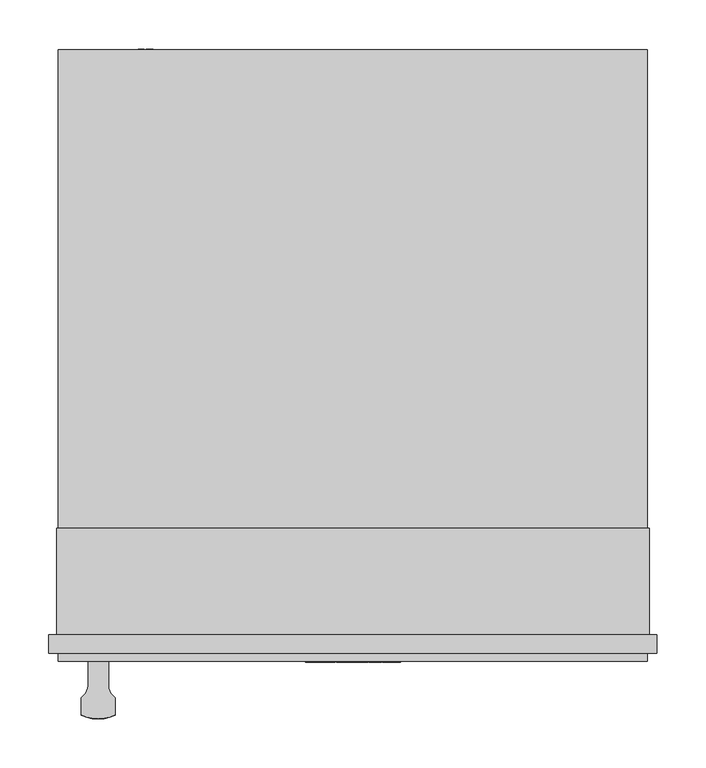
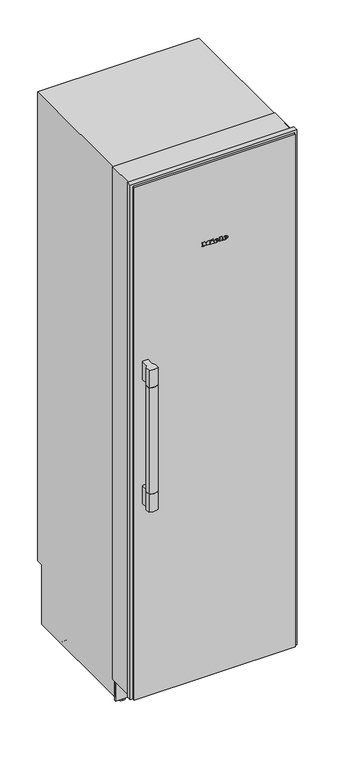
"""IFC4 building model written with IfcOpenShell, lengths in millimetres: proxy geometry, 11502570_USA_K2602SF : 36260211_USA_11502570_K2602SF."""

from ifc_helpers import new_model, si_unit, point, frame, frame_2d, origin, place, context, project, spatial, polyline, circle_curve, ellipse_curve, trimmed, segment, composite_curve, outline, extrude, faceted_brep, source, transform, mapped, element, save
from ifc_brep_helpers import plane_surface, cylinder_surface, revolved_surface, extruded_surface, advanced_brep


def specialty_equipment_205c020d(model_context):
    return source(origin(), model_context, "Body", "SolidModel", [
        extrude(outline(polyline([(-291.0, 68.0), (291.0, 68.0), (291.0, 21.0), (-291.0, 21.0), (-291.0, 68.0)])), frame((0.0, 0.0, 265.0), z_axis=(0.0, 0.0, 1.0), x_axis=(1.0, 0.0, 0.0)), (0.0, 0.0, 1.0), 1771.0),
        extrude(outline(polyline([(-137.5, 50.0), (137.5, 50.0), (137.5, 21.0), (-137.5, 21.0), (-137.5, 50.0)])), frame((0.0, 0.0, 2036.0), z_axis=(0.0, 0.0, 1.0), x_axis=(1.0, 0.0, 0.0)), (0.0, 0.0, 1.0), 56.0),
        extrude(outline(polyline([(265.0, 21.0), (265.0, 0.0), (265.0, -21.0), (224.0, -21.0), (224.0, -6.5), (99.0, -6.5), (99.0, 0.0), (99.0, 6.5), (224.0, 6.5), (224.0, 21.0), (265.0, 21.0)])), frame((0.0, 21.0, 0.0), z_axis=(0.0, 1.0, 0.0), x_axis=(0.0, 0.0, 1.0)), (0.0, 0.0, 1.0), 54.0),
        extrude(outline(polyline([(-301.5, 21.0), (301.5, 21.0), (301.5, 0.0), (-301.5, 0.0), (-301.5, 21.0)])), frame((0.0, 0.0, 90.0), z_axis=(0.0, 0.0, 1.0), x_axis=(1.0, 0.0, 0.0)), (0.0, 0.0, 1.0), 2023.0),
        advanced_brep(
        [(-250.0, 0.0, 928.0), (-271.0, 0.0, 928.0), (-271.0, -24.4390599, 928.0), (-278.0, -37.4390599, 928.0), (-278.0, -55.0, 928.0), (-260.5, -59.0, 928.0), (-243.0, -55.0, 928.0), (-243.0, -37.4390599, 928.0), (-250.0, -24.4390599, 928.0), (-243.0, -37.4390599, 858.0), (-243.0, -55.0, 858.0), (-260.5, -59.0, 858.0), (-278.0, -55.0, 858.0), (-278.0, -37.4390599, 858.0), (-271.0, -24.4390599, 858.0), (-271.0, 0.0, 858.0), (-250.0, 0.0, 858.0), (-250.0, -24.4390599, 858.0)],
        [
            (0, 1),
            (1, 2),
            (2, 3, circle_curve(frame((-286.5714286, -24.4390599, 928.0), z_axis=(0.0, 0.0, -1.0), x_axis=(-1.0, 0.0, 0.0)), 15.5714286)),
            (3, 4),
            (4, 5, circle_curve(frame((-260.5, -18.71875, 928.0), z_axis=(0.0, 0.0, 1.0), x_axis=(-1.0, 0.0, 0.0)), 40.28125)),
            (5, 6, circle_curve(frame((-260.5, -18.71875, 928.0), z_axis=(0.0, 0.0, 1.0), x_axis=(-1.0, 0.0, 0.0)), 40.28125)),
            (6, 7),
            (7, 8, circle_curve(frame((-234.4285714, -24.4390599, 928.0), z_axis=(0.0, 0.0, -1.0), x_axis=(-1.0, 0.0, 0.0)), 15.5714286)),
            (8, 0),
            (9, 10),
            (10, 11, circle_curve(frame((-260.5, -18.71875, 858.0), z_axis=(0.0, 0.0, -1.0), x_axis=(-1.0, 0.0, 0.0)), 40.28125)),
            (11, 12, circle_curve(frame((-260.5, -18.71875, 858.0), z_axis=(0.0, 0.0, -1.0), x_axis=(-1.0, 0.0, 0.0)), 40.28125)),
            (12, 13),
            (13, 14, circle_curve(frame((-286.5714286, -24.4390599, 858.0), z_axis=(0.0, 0.0, 1.0), x_axis=(-1.0, 0.0, 0.0)), 15.5714286)),
            (14, 15),
            (15, 16),
            (16, 17),
            (17, 9, circle_curve(frame((-234.4285714, -24.4390599, 858.0), z_axis=(0.0, 0.0, 1.0), x_axis=(-1.0, 0.0, 0.0)), 15.5714286)),
            (0, 16),
            (15, 1),
            (3, 13),
            (12, 4),
            (6, 10),
            (9, 7),
            (14, 2),
            (8, 17),
        ],
        [
            plane_surface(frame((-278.0, 0.0, 928.0), z_axis=(0.0, 0.0, 1.0), x_axis=(-1.0, 0.0, 0.0))),
            plane_surface(frame((-278.0, 0.0, 858.0), z_axis=(0.0, 0.0, -1.0), x_axis=(1.0, 0.0, 0.0))),
            plane_surface(frame((-243.0, 0.0, 928.0), z_axis=(0.0, 1.0, 0.0), x_axis=(0.0, 0.0, -1.0))),
            plane_surface(frame((-278.0, 0.0, 928.0), z_axis=(-1.0, 0.0, 0.0), x_axis=(0.0, 0.0, -1.0))),
            plane_surface(frame((-243.0, -59.0, 928.0), z_axis=(1.0, 0.0, 0.0), x_axis=(0.0, 0.0, -1.0))),
            plane_surface(frame((-271.0, -24.4390599, 1418.0), z_axis=(-1.0, 0.0, 0.0), x_axis=(0.0, 0.0, -1.0))),
            plane_surface(frame((-250.0, 0.0, 1418.0), z_axis=(1.0, 0.0, 0.0), x_axis=(0.0, 0.0, -1.0))),
            cylinder_surface(frame((-260.5, -18.71875, 858.0), z_axis=(0.0, 0.0, -1.0), x_axis=(-1.0, 0.0, 0.0)), 40.28125),
            revolved_surface(polyline([(-302.1428572, -24.4390599, 928.0), (-302.1428572, -24.4390599, 858.0)]), (-286.5714286, -24.4390599, 858.0), (0.0, 0.0, 1.0)),
            revolved_surface(polyline([(-250.0, -24.4390599, 928.0), (-250.0, -24.4390599, 858.0)]), (-234.4285714, -24.4390599, 858.0), (0.0, 0.0, 1.0)),
        ],
        [
            (0, [[1, 2, 3, 4, 5, 6, 7, 8, 9]]),
            (1, [[10, 11, 12, 13, 14, 15, 16, 17, 18]]),
            (2, [[-1, 19, -16, 20]]),
            (3, [[-4, 21, -13, 22]]),
            (4, [[-7, 23, -10, 24]]),
            (5, [[25, -2, -20, -15]]),
            (6, [[26, -17, -19, -9]]),
            (7, [[-5, -22, -12, -11, -23, -6]]),
            (8, [[-25, -14, -21, -3]]),
            (9, [[-26, -8, -24, -18]]),
        ],
    ),
        advanced_brep(
        [(-243.0, -37.4390599, 928.0), (-243.0, -55.0, 928.0), (-260.5, -59.0, 928.0), (-278.0, -55.0, 928.0), (-278.0, -37.4390599, 928.0), (-276.1400312, -36.0, 928.0), (-244.8599688, -36.0, 928.0), (-244.8599688, -36.0, 1348.0), (-276.1400312, -36.0, 1348.0), (-278.0, -37.4390599, 1348.0), (-278.0, -55.0, 1348.0), (-260.5, -59.0, 1348.0), (-243.0, -55.0, 1348.0), (-243.0, -37.4390599, 1348.0)],
        [
            (0, 1),
            (1, 2, circle_curve(frame((-260.5, -18.71875, 928.0), z_axis=(0.0, 0.0, -1.0), x_axis=(-1.0, 0.0, 0.0)), 40.28125)),
            (2, 3, circle_curve(frame((-260.5, -18.71875, 928.0), z_axis=(0.0, 0.0, -1.0), x_axis=(-1.0, 0.0, 0.0)), 40.28125)),
            (3, 4),
            (4, 5, circle_curve(frame((-286.5714286, -24.4390599, 928.0), z_axis=(0.0, 0.0, 1.0), x_axis=(-1.0, 0.0, 0.0)), 15.5714286)),
            (5, 6),
            (6, 0, circle_curve(frame((-234.4285714, -24.4390599, 928.0), z_axis=(0.0, 0.0, 1.0), x_axis=(-1.0, 0.0, 0.0)), 15.5714286)),
            (7, 8),
            (8, 9, circle_curve(frame((-286.5714286, -24.4390599, 1348.0), z_axis=(0.0, 0.0, -1.0), x_axis=(-1.0, 0.0, 0.0)), 15.5714286)),
            (9, 10),
            (10, 11, circle_curve(frame((-260.5, -18.71875, 1348.0), z_axis=(0.0, 0.0, 1.0), x_axis=(-1.0, 0.0, 0.0)), 40.28125)),
            (11, 12, circle_curve(frame((-260.5, -18.71875, 1348.0), z_axis=(0.0, 0.0, 1.0), x_axis=(-1.0, 0.0, 0.0)), 40.28125)),
            (12, 13),
            (13, 7, circle_curve(frame((-234.4285714, -24.4390599, 1348.0), z_axis=(0.0, 0.0, -1.0), x_axis=(-1.0, 0.0, 0.0)), 15.5714286)),
            (0, 13),
            (12, 1),
            (3, 10),
            (9, 4),
            (5, 8),
            (7, 6),
        ],
        [
            plane_surface(frame((-243.0, -36.0, 928.0), z_axis=(0.0, 0.0, -1.0), x_axis=(0.0, -1.0, 0.0))),
            plane_surface(frame((-243.0, -36.0, 1348.0), z_axis=(0.0, 0.0, 1.0), x_axis=(0.0, 1.0, 0.0))),
            plane_surface(frame((-243.0, -36.0, 928.0), z_axis=(1.0, 0.0, 0.0), x_axis=(0.0, 0.0, 1.0))),
            plane_surface(frame((-278.0, -59.0, 928.0), z_axis=(-1.0, 0.0, 0.0), x_axis=(0.0, 0.0, 1.0))),
            plane_surface(frame((-278.0, -36.0, 928.0), z_axis=(0.0, 1.0, 0.0), x_axis=(0.0, 0.0, 1.0))),
            cylinder_surface(frame((-260.5, -18.71875, 858.0), z_axis=(0.0, 0.0, -1.0), x_axis=(-1.0, 0.0, 0.0)), 40.28125),
            revolved_surface(polyline([(-302.1428572, -24.4390599, 1348.0), (-302.1428572, -24.4390599, 928.0)]), (-286.5714286, -24.4390599, 858.0), (0.0, 0.0, 1.0)),
            revolved_surface(polyline([(-250.0, -24.4390599, 1348.0), (-250.0, -24.4390599, 928.0)]), (-234.4285714, -24.4390599, 858.0), (0.0, 0.0, 1.0)),
        ],
        [
            (0, [[1, 2, 3, 4, 5, 6, 7]]),
            (1, [[8, 9, 10, 11, 12, 13, 14]]),
            (2, [[-1, 15, -13, 16]]),
            (3, [[-4, 17, -10, 18]]),
            (4, [[-6, 19, -8, 20]]),
            (5, [[-2, -16, -12, -11, -17, -3]]),
            (6, [[-5, -18, -9, -19]]),
            (7, [[-7, -20, -14, -15]]),
        ],
    ),
        advanced_brep(
        [(-243.0, -37.4390599, 1348.0), (-243.0, -55.0, 1348.0), (-260.5, -59.0, 1348.0), (-278.0, -55.0, 1348.0), (-278.0, -37.4390599, 1348.0), (-271.0, -24.4390599, 1348.0), (-271.0, 0.0, 1348.0), (-250.0, 0.0, 1348.0), (-250.0, -24.4390599, 1348.0), (-250.0, 0.0, 1418.0), (-271.0, 0.0, 1418.0), (-271.0, -24.4390599, 1418.0), (-278.0, -37.4390599, 1418.0), (-278.0, -55.0, 1418.0), (-260.5, -59.0, 1418.0), (-243.0, -55.0, 1418.0), (-243.0, -37.4390599, 1418.0), (-250.0, -24.4390599, 1418.0)],
        [
            (0, 1),
            (1, 2, circle_curve(frame((-260.5, -18.71875, 1348.0), z_axis=(0.0, 0.0, -1.0), x_axis=(-1.0, 0.0, 0.0)), 40.28125)),
            (2, 3, circle_curve(frame((-260.5, -18.71875, 1348.0), z_axis=(0.0, 0.0, -1.0), x_axis=(-1.0, 0.0, 0.0)), 40.28125)),
            (3, 4),
            (4, 5, circle_curve(frame((-286.5714286, -24.4390599, 1348.0), z_axis=(0.0, 0.0, 1.0), x_axis=(-1.0, 0.0, 0.0)), 15.5714286)),
            (5, 6),
            (6, 7),
            (7, 8),
            (8, 0, circle_curve(frame((-234.4285714, -24.4390599, 1348.0), z_axis=(0.0, 0.0, 1.0), x_axis=(-1.0, 0.0, 0.0)), 15.5714286)),
            (9, 10),
            (10, 11),
            (11, 12, circle_curve(frame((-286.5714286, -24.4390599, 1418.0), z_axis=(0.0, 0.0, -1.0), x_axis=(-1.0, 0.0, 0.0)), 15.5714286)),
            (12, 13),
            (13, 14, circle_curve(frame((-260.5, -18.71875, 1418.0), z_axis=(0.0, 0.0, 1.0), x_axis=(-1.0, 0.0, 0.0)), 40.28125)),
            (14, 15, circle_curve(frame((-260.5, -18.71875, 1418.0), z_axis=(0.0, 0.0, 1.0), x_axis=(-1.0, 0.0, 0.0)), 40.28125)),
            (15, 16),
            (16, 17, circle_curve(frame((-234.4285714, -24.4390599, 1418.0), z_axis=(0.0, 0.0, -1.0), x_axis=(-1.0, 0.0, 0.0)), 15.5714286)),
            (17, 9),
            (6, 10),
            (9, 7),
            (3, 13),
            (12, 4),
            (0, 16),
            (15, 1),
            (5, 11),
            (17, 8),
        ],
        [
            plane_surface(frame((-278.0, 0.0, 1348.0), z_axis=(0.0, 0.0, -1.0), x_axis=(1.0, 0.0, 0.0))),
            plane_surface(frame((-278.0, 0.0, 1418.0), z_axis=(0.0, 0.0, 1.0), x_axis=(-1.0, 0.0, 0.0))),
            plane_surface(frame((-243.0, 0.0, 1418.0), z_axis=(0.0, 1.0, 0.0), x_axis=(0.0, 0.0, -1.0))),
            plane_surface(frame((-278.0, 0.0, 1418.0), z_axis=(-1.0, 0.0, 0.0), x_axis=(0.0, 0.0, -1.0))),
            plane_surface(frame((-243.0, -59.0, 1418.0), z_axis=(1.0, 0.0, 0.0), x_axis=(0.0, 0.0, -1.0))),
            plane_surface(frame((-271.0, -24.4390599, 1418.0), z_axis=(-1.0, 0.0, 0.0), x_axis=(0.0, 0.0, -1.0))),
            plane_surface(frame((-250.0, 0.0, 1418.0), z_axis=(1.0, 0.0, 0.0), x_axis=(0.0, 0.0, -1.0))),
            cylinder_surface(frame((-260.5, -18.71875, 858.0), z_axis=(0.0, 0.0, -1.0), x_axis=(-1.0, 0.0, 0.0)), 40.28125),
            revolved_surface(polyline([(-302.1428572, -24.4390599, 1418.0), (-302.1428572, -24.4390599, 1348.0)]), (-286.5714286, -24.4390599, 858.0), (0.0, 0.0, 1.0)),
            revolved_surface(polyline([(-250.0, -24.4390599, 1418.0), (-250.0, -24.4390599, 1348.0)]), (-234.4285714, -24.4390599, 858.0), (0.0, 0.0, 1.0)),
        ],
        [
            (0, [[1, 2, 3, 4, 5, 6, 7, 8, 9]]),
            (1, [[10, 11, 12, 13, 14, 15, 16, 17, 18]]),
            (2, [[-7, 19, -10, 20]]),
            (3, [[-4, 21, -13, 22]]),
            (4, [[-1, 23, -16, 24]]),
            (5, [[25, -11, -19, -6]]),
            (6, [[26, -8, -20, -18]]),
            (7, [[-2, -24, -15, -14, -21, -3]]),
            (8, [[-25, -5, -22, -12]]),
            (9, [[-26, -17, -23, -9]]),
        ],
    ),
        advanced_brep(
        [(38.22, -1.0, 1795.792), (38.22, -1.0, 1797.408), (48.924, -1.0, 1797.408), (30.3, -1.0, 1797.408), (34.7, -1.0, 1792.0), (48.652, -1.0, 1795.792), (43.82, -1.0, 1795.792), (40.012, -1.0, 1794.0), (38.22, -1.0, 1799.456), (38.22, -1.0, 1801.2), (40.956, -1.0, 1801.2), (40.956, -1.0, 1799.456), (38.22, 0.0, 1795.792), (40.012, 0.0, 1794.0), (43.82, 0.0, 1795.792), (48.652, 0.0, 1795.792), (34.7, 0.0, 1792.0), (30.3, 0.0, 1797.408), (48.924, 0.0, 1797.408), (38.22, 0.0, 1797.408), (38.22, 0.0, 1799.456), (40.956, 0.0, 1799.456), (40.956, 0.0, 1801.2), (38.22, 0.0, 1801.2)],
        [
            (0, 1),
            (1, 2),
            (2, 3, ellipse_curve(frame((39.612, -1.0, 1797.408), z_axis=(0.0, -1.0, 0.0), x_axis=(-1.0, 0.0, 0.0)), 9.312, 7.696)),
            (3, 4, circle_curve(frame((36.4920873, -1.0, 1797.952), z_axis=(0.0, -1.0, 0.0), x_axis=(0.0, 0.0, -1.0)), 6.2159376)),
            (4, 5, circle_curve(frame((39.4255872, -1.0, 1802.176), z_axis=(0.0, -1.0, 0.0), x_axis=(0.0, 0.0, -1.0)), 11.2197215)),
            (5, 6),
            (6, 7, circle_curve(frame((40.7941176, -1.0, 1797.28), z_axis=(0.0, 1.0, 0.0), x_axis=(0.0, 0.0, -1.0)), 3.3719591)),
            (7, 0, circle_curve(frame((40.012, -1.0, 1795.792), z_axis=(0.0, 1.0, 0.0), x_axis=(0.0, 0.0, -1.0)), 1.792)),
            (8, 9),
            (9, 10, circle_curve(frame((39.588, -1.0, 1801.2), z_axis=(0.0, 1.0, 0.0), x_axis=(0.0, 0.0, -1.0)), 1.368)),
            (10, 11),
            (11, 8),
            (12, 13, circle_curve(frame((40.012, 0.0, 1795.792), z_axis=(0.0, -1.0, 0.0), x_axis=(0.0, 0.0, -1.0)), 1.792)),
            (13, 14, circle_curve(frame((40.7941176, 0.0, 1797.28), z_axis=(0.0, -1.0, 0.0), x_axis=(0.0, 0.0, -1.0)), 3.3719591)),
            (14, 15),
            (15, 16, circle_curve(frame((39.4255872, 0.0, 1802.176), z_axis=(0.0, 1.0, 0.0), x_axis=(0.0, 0.0, -1.0)), 11.2197215)),
            (16, 17, circle_curve(frame((36.4920873, 0.0, 1797.952), z_axis=(0.0, 1.0, 0.0), x_axis=(0.0, 0.0, -1.0)), 6.2159376)),
            (17, 18, ellipse_curve(frame((39.612, 0.0, 1797.408), z_axis=(0.0, 1.0, 0.0), x_axis=(-1.0, 0.0, 0.0)), 9.312, 7.696)),
            (18, 19),
            (19, 12),
            (20, 21),
            (21, 22),
            (22, 23, circle_curve(frame((39.588, 0.0, 1801.2), z_axis=(0.0, -1.0, 0.0), x_axis=(0.0, 0.0, -1.0)), 1.368)),
            (23, 20),
            (0, 12),
            (19, 1),
            (18, 2),
            (5, 15),
            (14, 6),
            (17, 3),
            (13, 7),
            (16, 4),
            (8, 20),
            (23, 9),
            (22, 10),
            (21, 11),
        ],
        [
            plane_surface(frame((38.22, -1.0, 1797.408), z_axis=(0.0, -1.0, 0.0), x_axis=(0.0, 0.0, 1.0))),
            plane_surface(frame((38.22, 0.0, 1797.408), z_axis=(0.0, 1.0, 0.0), x_axis=(0.0, 0.0, -1.0))),
            plane_surface(frame((38.22, -1.0, 1795.792), z_axis=(1.0, 0.0, 0.0), x_axis=(0.0, 1.0, 0.0))),
            plane_surface(frame((38.22, -1.0, 1797.408), z_axis=(0.0, 0.0, -1.0), x_axis=(0.0, 1.0, 0.0))),
            plane_surface(frame((48.652, -1.0, 1795.792), z_axis=(0.0, 0.0, 1.0), x_axis=(0.0, 1.0, 0.0))),
            extruded_surface(trimmed(ellipse_curve(frame((39.612, 1.0, 1797.408), z_axis=(0.0, -1.0, 0.0), x_axis=(-1.0, 0.0, 0.0)), 9.312, 7.696), [point((48.924, 1.0, 1797.408))], [point((30.3, 1.0, 1797.408))], True, "CARTESIAN"), (0.0, -1.0, 0.0), 1.0),
            revolved_surface(polyline([(40.7941176, 0.0, 1793.9080409), (40.7941176, -1.0, 1793.9080409)]), (40.7941176, 0.0, 1797.28), (0.0, 1.0, 0.0)),
            revolved_surface(polyline([(40.012, 0.0, 1794.0), (40.012, -1.0, 1794.0)]), (40.012, 0.0, 1795.792), (0.0, 1.0, 0.0)),
            cylinder_surface(frame((36.4920873, 0.0, 1797.952), z_axis=(0.0, -1.0, 0.0), x_axis=(0.0, 0.0, -1.0)), 6.2159376),
            cylinder_surface(frame((39.4255872, 0.0, 1802.176), z_axis=(0.0, -1.0, 0.0), x_axis=(0.0, 0.0, -1.0)), 11.2197215),
            plane_surface(frame((38.22, -1.0, 1799.456), z_axis=(1.0, 0.0, 0.0), x_axis=(0.0, 1.0, 0.0))),
            revolved_surface(polyline([(39.588, 0.0, 1799.832), (39.588, -1.0, 1799.832)]), (39.588, 0.0, 1801.2), (0.0, 1.0, 0.0)),
            plane_surface(frame((40.956, -1.0, 1801.2), z_axis=(-1.0, 0.0, 0.0), x_axis=(0.0, 1.0, 0.0))),
            plane_surface(frame((40.956, -1.0, 1799.456), z_axis=(0.0, 0.0, 1.0), x_axis=(0.0, 1.0, 0.0))),
        ],
        [
            (0, [[1, 2, 3, 4, 5, 6, 7, 8], [9, 10, 11, 12]]),
            (1, [[13, 14, 15, 16, 17, 18, 19, 20], [21, 22, 23, 24]]),
            (2, [[-1, 25, -20, 26]]),
            (3, [[-2, -26, -19, 27]]),
            (4, [[-6, 28, -15, 29]]),
            (5, [[-3, -27, -18, 30]]),
            (6, [[-7, -29, -14, 31]]),
            (7, [[-8, -31, -13, -25]]),
            (8, [[-4, -30, -17, 32]]),
            (9, [[-5, -32, -16, -28]]),
            (10, [[-9, 33, -24, 34]]),
            (11, [[-10, -34, -23, 35]]),
            (12, [[-11, -35, -22, 36]]),
            (13, [[-12, -36, -21, -33]]),
        ],
    ),
        advanced_brep(
        [(4.828, -1.0, 1795.792), (4.828, -1.0, 1797.408), (15.532, -1.0, 1797.408), (-3.092, -1.0, 1797.408), (1.308, -1.0, 1792.0), (15.26, -1.0, 1795.792), (10.428, -1.0, 1795.792), (6.62, -1.0, 1794.0), (4.828, -1.0, 1799.456), (4.828, -1.0, 1801.2), (7.564, -1.0, 1801.2), (7.564, -1.0, 1799.456), (4.828, 0.0, 1795.792), (6.62, 0.0, 1794.0), (10.428, 0.0, 1795.792), (15.26, 0.0, 1795.792), (1.308, 0.0, 1792.0), (-3.092, 0.0, 1797.408), (15.532, 0.0, 1797.408), (4.828, 0.0, 1797.408), (4.828, 0.0, 1799.456), (7.564, 0.0, 1799.456), (7.564, 0.0, 1801.2), (4.828, 0.0, 1801.2)],
        [
            (0, 1),
            (1, 2),
            (2, 3, ellipse_curve(frame((6.22, -1.0, 1797.408), z_axis=(0.0, -1.0, 0.0), x_axis=(-1.0, 0.0, 0.0)), 9.312, 7.696)),
            (3, 4, circle_curve(frame((3.1000873, -1.0, 1797.952), z_axis=(0.0, -1.0, 0.0), x_axis=(0.0, 0.0, -1.0)), 6.2159376)),
            (4, 5, circle_curve(frame((6.0335872, -1.0, 1802.176), z_axis=(0.0, -1.0, 0.0), x_axis=(0.0, 0.0, -1.0)), 11.2197215)),
            (5, 6),
            (6, 7, circle_curve(frame((7.4021176, -1.0, 1797.28), z_axis=(0.0, 1.0, 0.0), x_axis=(0.0, 0.0, -1.0)), 3.3719591)),
            (7, 0, circle_curve(frame((6.62, -1.0, 1795.792), z_axis=(0.0, 1.0, 0.0), x_axis=(0.0, 0.0, -1.0)), 1.792)),
            (8, 9),
            (9, 10, circle_curve(frame((6.196, -1.0, 1801.2), z_axis=(0.0, 1.0, 0.0), x_axis=(0.0, 0.0, -1.0)), 1.368)),
            (10, 11),
            (11, 8),
            (12, 13, circle_curve(frame((6.62, 0.0, 1795.792), z_axis=(0.0, -1.0, 0.0), x_axis=(0.0, 0.0, -1.0)), 1.792)),
            (13, 14, circle_curve(frame((7.4021176, 0.0, 1797.28), z_axis=(0.0, -1.0, 0.0), x_axis=(0.0, 0.0, -1.0)), 3.3719591)),
            (14, 15),
            (15, 16, circle_curve(frame((6.0335872, 0.0, 1802.176), z_axis=(0.0, 1.0, 0.0), x_axis=(0.0, 0.0, -1.0)), 11.2197215)),
            (16, 17, circle_curve(frame((3.1000873, 0.0, 1797.952), z_axis=(0.0, 1.0, 0.0), x_axis=(0.0, 0.0, -1.0)), 6.2159376)),
            (17, 18, ellipse_curve(frame((6.22, 0.0, 1797.408), z_axis=(0.0, 1.0, 0.0), x_axis=(-1.0, 0.0, 0.0)), 9.312, 7.696)),
            (18, 19),
            (19, 12),
            (20, 21),
            (21, 22),
            (22, 23, circle_curve(frame((6.196, 0.0, 1801.2), z_axis=(0.0, -1.0, 0.0), x_axis=(0.0, 0.0, -1.0)), 1.368)),
            (23, 20),
            (0, 12),
            (19, 1),
            (18, 2),
            (5, 15),
            (14, 6),
            (17, 3),
            (13, 7),
            (16, 4),
            (8, 20),
            (23, 9),
            (22, 10),
            (21, 11),
        ],
        [
            plane_surface(frame((4.828, -1.0, 1797.408), z_axis=(0.0, -1.0, 0.0), x_axis=(0.0, 0.0, 1.0))),
            plane_surface(frame((4.828, 0.0, 1797.408), z_axis=(0.0, 1.0, 0.0), x_axis=(0.0, 0.0, -1.0))),
            plane_surface(frame((4.828, -1.0, 1795.792), z_axis=(1.0, 0.0, 0.0), x_axis=(0.0, 1.0, 0.0))),
            plane_surface(frame((4.828, -1.0, 1797.408), z_axis=(0.0, 0.0, -1.0), x_axis=(0.0, 1.0, 0.0))),
            plane_surface(frame((15.26, -1.0, 1795.792), z_axis=(0.0, 0.0, 1.0), x_axis=(0.0, 1.0, 0.0))),
            extruded_surface(trimmed(ellipse_curve(frame((6.22, 1.0, 1797.408), z_axis=(0.0, -1.0, 0.0), x_axis=(-1.0, 0.0, 0.0)), 9.312, 7.696), [point((15.532, 1.0, 1797.408))], [point((-3.092, 1.0, 1797.408))], True, "CARTESIAN"), (0.0, -1.0, 0.0), 1.0),
            revolved_surface(polyline([(7.4021176, 0.0, 1793.9080409), (7.4021176, -1.0, 1793.9080409)]), (7.4021176, 0.0, 1797.28), (0.0, 1.0, 0.0)),
            revolved_surface(polyline([(6.62, 0.0, 1794.0), (6.62, -1.0, 1794.0)]), (6.62, 0.0, 1795.792), (0.0, 1.0, 0.0)),
            cylinder_surface(frame((3.1000873, 0.0, 1797.952), z_axis=(0.0, -1.0, 0.0), x_axis=(0.0, 0.0, -1.0)), 6.2159376),
            cylinder_surface(frame((6.0335872, 0.0, 1802.176), z_axis=(0.0, -1.0, 0.0), x_axis=(0.0, 0.0, -1.0)), 11.2197215),
            plane_surface(frame((4.828, -1.0, 1799.456), z_axis=(1.0, 0.0, 0.0), x_axis=(0.0, 1.0, 0.0))),
            revolved_surface(polyline([(6.196, 0.0, 1799.832), (6.196, -1.0, 1799.832)]), (6.196, 0.0, 1801.2), (0.0, 1.0, 0.0)),
            plane_surface(frame((7.564, -1.0, 1801.2), z_axis=(-1.0, 0.0, 0.0), x_axis=(0.0, 1.0, 0.0))),
            plane_surface(frame((7.564, -1.0, 1799.456), z_axis=(0.0, 0.0, 1.0), x_axis=(0.0, 1.0, 0.0))),
        ],
        [
            (0, [[1, 2, 3, 4, 5, 6, 7, 8], [9, 10, 11, 12]]),
            (1, [[13, 14, 15, 16, 17, 18, 19, 20], [21, 22, 23, 24]]),
            (2, [[-1, 25, -20, 26]]),
            (3, [[-2, -26, -19, 27]]),
            (4, [[-6, 28, -15, 29]]),
            (5, [[-3, -27, -18, 30]]),
            (6, [[-7, -29, -14, 31]]),
            (7, [[-8, -31, -13, -25]]),
            (8, [[-4, -30, -17, 32]]),
            (9, [[-5, -32, -16, -28]]),
            (10, [[-9, 33, -24, 34]]),
            (11, [[-10, -34, -23, 35]]),
            (12, [[-11, -35, -22, 36]]),
            (13, [[-12, -36, -21, -33]]),
        ],
    ),
        extrude(outline(polyline([(1807.056, -12.66), (1804.464, -11.444), (1806.992, -6.02), (1809.584, -7.22), (1807.056, -12.66)])), frame((0.0, -1.0, 0.0), z_axis=(0.0, 1.0, 0.0), x_axis=(0.0, 0.0, 1.0)), (0.0, 0.0, 1.0), 1.0),
        extrude(outline(polyline([(1804.112, -16.612), (1801.248, -16.612), (1801.248, -14.708), (1794.688, -14.708), (1794.688, -16.612), (1792.0, -16.612), (1792.0, -3.988), (1794.688, -3.988), (1794.688, -5.844), (1804.112, -5.844), (1804.112, -16.612)])), frame((0.0, -1.0, 0.0), z_axis=(0.0, 1.0, 0.0), x_axis=(0.0, 0.0, 1.0)), (0.0, 0.0, 1.0), 1.0),
        extrude(outline(polyline([(1805.392, 16.428), (1805.392, 18.348), (1794.688, 18.348), (1794.688, 16.428), (1792.0, 16.428), (1792.0, 29.404), (1794.688, 29.404), (1794.688, 27.436), (1808.0, 27.436), (1808.0, 16.428), (1805.392, 16.428)])), frame((0.0, -1.0, 0.0), z_axis=(0.0, 1.0, 0.0), x_axis=(0.0, 0.0, 1.0)), (0.0, 0.0, 1.0), 1.0),
        extrude(outline(polyline([(1805.392, -48.5), (1805.392, -46.564), (1794.688, -46.564), (1794.688, -48.5), (1792.0, -48.5), (1792.0, -41.46), (1794.688, -41.46), (1794.688, -43.38), (1801.4431247, -43.38), (1792.0, -36.228), (1801.8152223, -29.044), (1794.688, -29.044), (1794.688, -31.012), (1792.0, -31.012), (1792.0, -18.244), (1794.688, -18.244), (1794.688, -20.276), (1805.392, -20.276), (1805.392, -18.244), (1808.0, -18.244), (1808.0, -27.988), (1802.0, -32.66), (1808.0, -37.348), (1808.0, -48.5), (1805.392, -48.5)])), frame((0.0, -1.0, 0.0), z_axis=(0.0, 1.0, 0.0), x_axis=(0.0, 0.0, 1.0)), (0.0, 0.0, 1.0), 1.0),
        extrude(outline(polyline([(108.0, 1998.0), (565.0, 1998.0), (565.0, 1791.0), (496.0, 1791.0), (468.0, 1868.0), (222.3701279, 1868.0), (177.3150905, 1940.0880598), (108.0, 1949.0), (108.0, 1998.0)])), frame((-255.5, 0.0, 0.0), z_axis=(1.0, 0.0, 0.0), x_axis=(0.0, 1.0, 0.0)), (0.0, 0.0, 1.0), 511.0),
        extrude(outline(polyline([(217.9886114, 1875.0), (216.809433, 1875.0), (179.6921935, 1934.4), (180.8713719, 1934.4), (217.9886114, 1875.0)])), frame((-69.0, 0.0, 0.0), z_axis=(1.0, 0.0, 0.0), x_axis=(0.0, 1.0, 0.0)), (0.0, 0.0, 1.0), 138.0),
        extrude(outline(polyline([(2095.0, 295.0), (2095.0, 140.0), (2047.0, 140.0), (2047.0, 146.0), (2036.5, 146.0), (2036.5, 261.0), (2047.0, 261.0), (2047.0, 295.0), (2095.0, 295.0)])), frame((0.0, 21.0, 0.0), z_axis=(0.0, 1.0, 0.0), x_axis=(0.0, 0.0, 1.0)), (0.0, 0.0, 1.0), 47.0),
        extrude(outline(polyline([(254.0, 140.0), (206.0, 140.0), (206.0, 295.0), (254.0, 295.0), (254.0, 261.0), (264.0, 261.0), (264.0, 146.0), (254.0, 146.0), (254.0, 140.0)])), frame((0.0, 21.0, 0.0), z_axis=(0.0, 1.0, 0.0), x_axis=(0.0, 0.0, 1.0)), (0.0, 0.0, 1.0), 54.0),
        extrude(outline(polyline([(99.0373308, -211.2645771), (97.7615342, -211.2645771), (97.7615342, -205.3195541), (94.7968516, -205.3195541), (94.7968516, -210.969579), (93.5246295, -210.969579), (93.5246295, -205.3415693), (90.2570046, -205.3415693), (90.2570046, -211.4619689), (88.9546219, -211.4619689), (88.9546219, -204.0443524), (99.0373308, -204.0443524), (99.0373308, -211.2645771)])), frame((0.0, 625.0, 0.0), z_axis=(0.0, 1.0, 0.0), x_axis=(0.0, 0.0, 1.0)), (0.0, 0.0, 1.0), 1.0),
        extrude(outline(polyline([(99.0458, -214.5619704), (90.2663944, -214.5619704), (90.2663944, -219.6145879), (89.0134802, -219.6145879), (89.0134802, -213.3423809), (99.0458, -213.3423809), (99.0458, -214.5619704)])), frame((0.0, 625.0, 0.0), z_axis=(0.0, 1.0, 0.0), x_axis=(0.0, 0.0, 1.0)), (0.0, 0.0, 1.0), 1.0),
        extrude(outline(composite_curve([segment(trimmed(circle_curve(frame_2d((94.0, -211.5)), 7.5), [point((86.5, -211.5))], [point((101.5, -211.5))], False, "CARTESIAN"), True, "CONTINUOUS"), segment(trimmed(circle_curve(frame_2d((94.0, -211.5)), 7.5), [point((101.5, -211.5))], [point((86.5, -211.5))], False, "CARTESIAN"), True, "CONTINUOUS")], self_intersect=False)), frame((0.0, 598.0, 0.0), z_axis=(0.0, 1.0, 0.0), x_axis=(0.0, 0.0, 1.0)), (0.0, 0.0, 1.0), 27.0),
        extrude(outline(polyline([(-301.5, 125.0), (301.5, 125.0), (301.5, 120.0), (-301.5, 120.0), (-301.5, 125.0)])), frame((0.0, 0.0, 14.0), z_axis=(0.0, 0.0, 1.0), x_axis=(1.0, 0.0, 0.0)), (0.0, 0.0, 1.0), 83.0),
        advanced_brep(
        [(-267.5, 160.0, 0.0), (-267.5, 130.0, 0.0), (-267.5, 160.0, 7.0), (-267.5, 130.0, 7.0), (-267.5, 149.7, 7.0), (-267.5, 140.3, 7.0), (-267.5, 149.7, 28.0), (-267.5, 140.3, 28.0)],
        [
            (0, 1, circle_curve(frame((-267.5, 145.0, 0.0), z_axis=(0.0, 0.0, -1.0), x_axis=(1.0, 0.0, 0.0)), 15.0)),
            (1, 0, circle_curve(frame((-267.5, 145.0, 0.0), z_axis=(0.0, 0.0, -1.0), x_axis=(1.0, 0.0, 0.0)), 15.0)),
            (2, 3, circle_curve(frame((-267.5, 145.0, 7.0), z_axis=(0.0, 0.0, 1.0), x_axis=(1.0, 0.0, 0.0)), 15.0)),
            (3, 2, circle_curve(frame((-267.5, 145.0, 7.0), z_axis=(0.0, 0.0, 1.0), x_axis=(1.0, 0.0, 0.0)), 15.0)),
            (4, 5, circle_curve(frame((-267.5, 145.0, 7.0), z_axis=(0.0, 0.0, -1.0), x_axis=(0.0, -1.0, 0.0)), 4.7)),
            (5, 4, circle_curve(frame((-267.5, 145.0, 7.0), z_axis=(0.0, 0.0, -1.0), x_axis=(0.0, -1.0, 0.0)), 4.7)),
            (0, 2),
            (3, 1),
            (6, 7, circle_curve(frame((-267.5, 145.0, 28.0), z_axis=(0.0, 0.0, 1.0), x_axis=(0.0, -1.0, 0.0)), 4.7)),
            (7, 6, circle_curve(frame((-267.5, 145.0, 28.0), z_axis=(0.0, 0.0, 1.0), x_axis=(0.0, -1.0, 0.0)), 4.7)),
            (7, 5),
            (4, 6),
        ],
        [
            plane_surface(frame((-252.5, 145.0, 0.0), z_axis=(0.0, 0.0, -1.0), x_axis=(0.0, -1.0, 0.0))),
            plane_surface(frame((-252.5, 145.0, 7.0), z_axis=(0.0, 0.0, 1.0), x_axis=(0.0, 1.0, 0.0))),
            cylinder_surface(frame((-267.5, 145.0, 7.0), z_axis=(0.0, 0.0, -1.0), x_axis=(1.0, 0.0, 0.0)), 15.0),
            plane_surface(frame((-267.5, 140.3, 28.0), z_axis=(0.0, 0.0, 1.0), x_axis=(1.0, 0.0, 0.0))),
            cylinder_surface(frame((-267.5, 145.0, 28.0), z_axis=(0.0, 0.0, -1.0), x_axis=(0.0, -1.0, 0.0)), 4.7),
        ],
        [
            (0, [[1, 2]]),
            (1, [[3, 4], [5, 6]]),
            (2, [[-1, 7, -4, 8]]),
            (2, [[-2, -8, -3, -7]]),
            (3, [[9, 10]]),
            (4, [[-10, 11, -5, 12]]),
            (4, [[-9, -12, -6, -11]]),
        ],
    ),
        advanced_brep(
        [(267.5, 160.0, 0.0), (267.5, 130.0, 0.0), (267.5, 160.0, 7.0), (267.5, 130.0, 7.0), (267.5, 149.7, 7.0), (267.5, 140.3, 7.0), (267.5, 149.7, 28.0), (267.5, 140.3, 28.0)],
        [
            (0, 1, circle_curve(frame((267.5, 145.0, 0.0), z_axis=(0.0, 0.0, -1.0), x_axis=(1.0, 0.0, 0.0)), 15.0)),
            (1, 0, circle_curve(frame((267.5, 145.0, 0.0), z_axis=(0.0, 0.0, -1.0), x_axis=(1.0, 0.0, 0.0)), 15.0)),
            (2, 3, circle_curve(frame((267.5, 145.0, 7.0), z_axis=(0.0, 0.0, 1.0), x_axis=(1.0, 0.0, 0.0)), 15.0)),
            (3, 2, circle_curve(frame((267.5, 145.0, 7.0), z_axis=(0.0, 0.0, 1.0), x_axis=(1.0, 0.0, 0.0)), 15.0)),
            (4, 5, circle_curve(frame((267.5, 145.0, 7.0), z_axis=(0.0, 0.0, -1.0), x_axis=(0.0, -1.0, 0.0)), 4.7)),
            (5, 4, circle_curve(frame((267.5, 145.0, 7.0), z_axis=(0.0, 0.0, -1.0), x_axis=(0.0, -1.0, 0.0)), 4.7)),
            (0, 2),
            (3, 1),
            (6, 7, circle_curve(frame((267.5, 145.0, 28.0), z_axis=(0.0, 0.0, 1.0), x_axis=(0.0, -1.0, 0.0)), 4.7)),
            (7, 6, circle_curve(frame((267.5, 145.0, 28.0), z_axis=(0.0, 0.0, 1.0), x_axis=(0.0, -1.0, 0.0)), 4.7)),
            (7, 5),
            (4, 6),
        ],
        [
            plane_surface(frame((-252.5, 145.0, 0.0), z_axis=(0.0, 0.0, -1.0), x_axis=(0.0, -1.0, 0.0))),
            plane_surface(frame((-252.5, 145.0, 7.0), z_axis=(0.0, 0.0, 1.0), x_axis=(0.0, 1.0, 0.0))),
            cylinder_surface(frame((267.5, 145.0, 7.0), z_axis=(0.0, 0.0, -1.0), x_axis=(1.0, 0.0, 0.0)), 15.0),
            plane_surface(frame((-267.5, 140.3, 28.0), z_axis=(0.0, 0.0, 1.0), x_axis=(1.0, 0.0, 0.0))),
            cylinder_surface(frame((267.5, 145.0, 28.0), z_axis=(0.0, 0.0, -1.0), x_axis=(0.0, -1.0, 0.0)), 4.7),
        ],
        [
            (0, [[1, 2]]),
            (1, [[3, 4], [5, 6]]),
            (2, [[-1, 7, -4, 8]]),
            (2, [[-2, -8, -3, -7]]),
            (3, [[9, 10]]),
            (4, [[-10, 11, -5, 12]]),
            (4, [[-9, -12, -6, -11]]),
        ],
    ),
        advanced_brep(
        [(301.5, 68.0, 2114.0), (301.5, 68.0, 267.0), (301.5, 75.0, 267.0), (301.5, 75.0, 97.0), (301.5, 125.0, 97.0), (301.5, 125.0, 28.0), (301.5, 598.0, 28.0), (301.5, 598.0, 263.0), (301.5, 625.0, 263.0), (301.5, 625.0, 2114.0), (-301.5, 68.0, 2114.0), (-301.5, 625.0, 2114.0), (-301.5, 625.0, 263.0), (-301.5, 598.0, 263.0), (-301.5, 598.0, 28.0), (-301.5, 125.0, 28.0), (-301.5, 125.0, 97.0), (-301.5, 75.0, 97.0), (-301.5, 75.0, 267.0), (-301.5, 68.0, 267.0), (241.5, 598.0, 28.0), (241.5, 598.0, 14.0), (-241.5, 598.0, 14.0), (-241.5, 598.0, 28.0), (241.5, 125.0, 14.0), (-241.5, 125.0, 14.0), (-241.5, 125.0, 28.0), (241.5, 125.0, 28.0), (255.5, 68.0, 1998.0), (255.5, 68.0, 343.0), (-255.5, 68.0, 343.0), (-255.5, 68.0, 1998.0), (255.5, 565.0, 1998.0), (-255.5, 565.0, 1998.0), (-255.5, 565.0, 343.0), (255.5, 565.0, 343.0), (-260.0, 223.8193473, 28.0), (-279.0, 223.8193473, 28.0), (-279.0, 174.1806527, 28.0), (-260.0, 174.1806527, 28.0), (-279.5, 546.8193473, 28.0), (-279.5, 497.1806527, 28.0), (-263.5, 497.1806527, 28.0), (-263.5, 546.8193473, 28.0), (279.0, 174.1806527, 28.0), (279.0, 223.8193473, 28.0), (260.0, 223.8193473, 28.0), (260.0, 174.1806527, 28.0), (263.5, 546.8193473, 28.0), (263.5, 497.1806527, 28.0), (279.5, 497.1806527, 28.0), (279.5, 546.8193473, 28.0), (-260.0, 224.0, 25.0), (-260.0, 174.0, 25.0), (-279.0, 174.0, 25.0), (-279.0, 224.0, 25.0), (-260.0, 199.0, 25.0), (-279.0, 199.0, 25.0), (279.0, 199.0, 25.0), (279.0, 174.0, 25.0), (279.0, 224.0, 25.0), (260.0, 224.0, 25.0), (260.0, 174.0, 25.0), (260.0, 199.0, 25.0), (-279.5, 547.0, 25.0), (-279.5, 497.0, 25.0), (-279.5, 522.0, 25.0), (-263.5, 547.0, 25.0), (-263.5, 497.0, 25.0), (-263.5, 522.0, 25.0), (263.5, 547.0, 25.0), (263.5, 497.0, 25.0), (263.5, 522.0, 25.0), (279.5, 547.0, 25.0), (279.5, 497.0, 25.0), (279.5, 522.0, 25.0)],
        [
            (0, 1),
            (1, 2),
            (2, 3),
            (3, 4),
            (4, 5),
            (5, 6),
            (6, 7),
            (7, 8),
            (8, 9),
            (9, 0),
            (10, 11),
            (11, 12),
            (12, 13),
            (13, 14),
            (14, 15),
            (15, 16),
            (16, 17),
            (17, 18),
            (18, 19),
            (19, 10),
            (9, 11),
            (10, 0),
            (8, 12),
            (7, 13),
            (6, 20),
            (20, 21),
            (21, 22),
            (22, 23),
            (23, 14),
            (21, 24),
            (24, 25),
            (25, 22),
            (4, 16),
            (15, 26),
            (26, 25),
            (24, 27),
            (27, 5),
            (3, 17),
            (2, 18),
            (1, 19),
            (28, 29),
            (29, 30),
            (30, 31),
            (31, 28),
            (32, 33),
            (33, 34),
            (34, 35),
            (35, 32),
            (35, 29),
            (28, 32),
            (34, 30),
            (33, 31),
            (23, 26),
            (36, 37),
            (37, 38),
            (38, 39),
            (39, 36),
            (40, 41),
            (41, 42),
            (42, 43),
            (43, 40),
            (27, 20),
            (44, 45),
            (45, 46),
            (46, 47),
            (47, 44),
            (48, 49),
            (49, 50),
            (50, 51),
            (51, 48),
            (52, 53, circle_curve(frame((-260.0, 199.0, 25.0), z_axis=(-1.0, 0.0, 0.0), x_axis=(0.0, -1.0, 0.0)), 25.0)),
            (53, 54),
            (54, 55, circle_curve(frame((-279.0, 199.0, 25.0), z_axis=(1.0, 0.0, 0.0), x_axis=(0.0, -1.0, 0.0)), 25.0)),
            (55, 52),
            (53, 39, circle_curve(frame((-260.0, 199.0, 25.0), z_axis=(-1.0, 0.0, 0.0), x_axis=(0.0, -1.0, 0.0)), 25.0)),
            (38, 54, circle_curve(frame((-279.0, 199.0, 25.0), z_axis=(1.0, 0.0, 0.0), x_axis=(0.0, -1.0, 0.0)), 25.0)),
            (55, 37, circle_curve(frame((-279.0, 199.0, 25.0), z_axis=(1.0, 0.0, 0.0), x_axis=(0.0, -1.0, 0.0)), 25.0)),
            (36, 52, circle_curve(frame((-260.0, 199.0, 25.0), z_axis=(-1.0, 0.0, 0.0), x_axis=(0.0, -1.0, 0.0)), 25.0)),
            (52, 56),
            (56, 53),
            (54, 57),
            (57, 55),
            (58, 59),
            (59, 60, circle_curve(frame((279.0, 199.0, 25.0), z_axis=(1.0, 0.0, 0.0), x_axis=(0.0, -1.0, 0.0)), 25.0)),
            (60, 58),
            (60, 45, circle_curve(frame((279.0, 199.0, 25.0), z_axis=(1.0, 0.0, 0.0), x_axis=(0.0, -1.0, 0.0)), 25.0)),
            (44, 59, circle_curve(frame((279.0, 199.0, 25.0), z_axis=(1.0, 0.0, 0.0), x_axis=(0.0, -1.0, 0.0)), 25.0)),
            (61, 62, circle_curve(frame((260.0, 199.0, 25.0), z_axis=(-1.0, 0.0, 0.0), x_axis=(0.0, -1.0, 0.0)), 25.0)),
            (62, 63),
            (63, 61),
            (62, 47, circle_curve(frame((260.0, 199.0, 25.0), z_axis=(-1.0, 0.0, 0.0), x_axis=(0.0, -1.0, 0.0)), 25.0)),
            (46, 61, circle_curve(frame((260.0, 199.0, 25.0), z_axis=(-1.0, 0.0, 0.0), x_axis=(0.0, -1.0, 0.0)), 25.0)),
            (64, 65, circle_curve(frame((-279.5, 522.0, 25.0), z_axis=(-1.0, 0.0, 0.0), x_axis=(0.0, -1.0, 0.0)), 25.0)),
            (65, 66),
            (66, 64),
            (65, 41, circle_curve(frame((-279.5, 522.0, 25.0), z_axis=(-1.0, 0.0, 0.0), x_axis=(0.0, -1.0, 0.0)), 25.0)),
            (40, 64, circle_curve(frame((-279.5, 522.0, 25.0), z_axis=(-1.0, 0.0, 0.0), x_axis=(0.0, -1.0, 0.0)), 25.0)),
            (64, 67),
            (67, 68, circle_curve(frame((-263.5, 522.0, 25.0), z_axis=(-1.0, 0.0, 0.0), x_axis=(0.0, -1.0, 0.0)), 25.0)),
            (68, 65),
            (43, 67, circle_curve(frame((-263.5, 522.0, 25.0), z_axis=(-1.0, 0.0, 0.0), x_axis=(0.0, -1.0, 0.0)), 25.0)),
            (68, 42, circle_curve(frame((-263.5, 522.0, 25.0), z_axis=(-1.0, 0.0, 0.0), x_axis=(0.0, -1.0, 0.0)), 25.0)),
            (67, 69),
            (69, 68),
            (70, 71, circle_curve(frame((263.5, 522.0, 25.0), z_axis=(-1.0, 0.0, 0.0), x_axis=(0.0, -1.0, 0.0)), 25.0)),
            (71, 72),
            (72, 70),
            (71, 49, circle_curve(frame((263.5, 522.0, 25.0), z_axis=(-1.0, 0.0, 0.0), x_axis=(0.0, -1.0, 0.0)), 25.0)),
            (48, 70, circle_curve(frame((263.5, 522.0, 25.0), z_axis=(-1.0, 0.0, 0.0), x_axis=(0.0, -1.0, 0.0)), 25.0)),
            (70, 73),
            (73, 74, circle_curve(frame((279.5, 522.0, 25.0), z_axis=(-1.0, 0.0, 0.0), x_axis=(0.0, -1.0, 0.0)), 25.0)),
            (74, 71),
            (51, 73, circle_curve(frame((279.5, 522.0, 25.0), z_axis=(-1.0, 0.0, 0.0), x_axis=(0.0, -1.0, 0.0)), 25.0)),
            (74, 50, circle_curve(frame((279.5, 522.0, 25.0), z_axis=(-1.0, 0.0, 0.0), x_axis=(0.0, -1.0, 0.0)), 25.0)),
            (73, 75),
            (75, 74),
            (59, 62),
            (61, 60),
        ],
        [
            plane_surface(frame((301.5, 625.0, 2114.0), z_axis=(1.0, 0.0, 0.0), x_axis=(0.0, -1.0, 0.0))),
            plane_surface(frame((-301.5, 625.0, 2114.0), z_axis=(-1.0, 0.0, 0.0), x_axis=(0.0, 1.0, 0.0))),
            plane_surface(frame((-301.5, 68.0, 2114.0), z_axis=(0.0, 0.0, 1.0), x_axis=(1.0, 0.0, 0.0))),
            plane_surface(frame((-301.5, 625.0, 2114.0), z_axis=(0.0, 1.0, 0.0), x_axis=(1.0, 0.0, 0.0))),
            plane_surface(frame((-301.5, 625.0, 263.0), z_axis=(0.0, 0.0, -1.0), x_axis=(1.0, 0.0, 0.0))),
            plane_surface(frame((-301.5, 598.0, 263.0), z_axis=(0.0, 1.0, 0.0), x_axis=(1.0, 0.0, 0.0))),
            plane_surface(frame((-301.5, 598.0, 14.0), z_axis=(0.0, 0.0, -1.0), x_axis=(1.0, 0.0, 0.0))),
            plane_surface(frame((-301.5, 125.0, 14.0), z_axis=(0.0, -1.0, 0.0), x_axis=(1.0, 0.0, 0.0))),
            plane_surface(frame((-301.5, 125.0, 97.0), z_axis=(0.0, 0.0, -1.0), x_axis=(1.0, 0.0, 0.0))),
            plane_surface(frame((-301.5, 75.0, 97.0), z_axis=(0.0, -1.0, 0.0), x_axis=(1.0, 0.0, 0.0))),
            plane_surface(frame((-301.5, 75.0, 267.0), z_axis=(0.0, 0.0, -1.0), x_axis=(1.0, 0.0, 0.0))),
            plane_surface(frame((-301.5, 68.0, 267.0), z_axis=(0.0, -1.0, 0.0), x_axis=(1.0, 0.0, 0.0))),
            plane_surface(frame((255.5, 565.0, 1998.0), z_axis=(0.0, -1.0, 0.0), x_axis=(0.0, 0.0, -1.0))),
            plane_surface(frame((255.5, 565.0, 1998.0), z_axis=(-1.0, 0.0, 0.0), x_axis=(0.0, -1.0, 0.0))),
            plane_surface(frame((255.5, 565.0, 343.0), z_axis=(0.0, 0.0, 1.0), x_axis=(0.0, -1.0, 0.0))),
            plane_surface(frame((-255.5, 565.0, 343.0), z_axis=(1.0, 0.0, 0.0), x_axis=(0.0, -1.0, 0.0))),
            plane_surface(frame((-255.5, 565.0, 1998.0), z_axis=(0.0, 0.0, -1.0), x_axis=(0.0, -1.0, 0.0))),
            plane_surface(frame((-301.5, 625.0, 28.0), z_axis=(0.0, 0.0, -1.0), x_axis=(-1.0, 0.0, 0.0))),
            plane_surface(frame((-241.5, 125.0, 28.0), z_axis=(-1.0, 0.0, 0.0), x_axis=(0.0, 0.0, -1.0))),
            plane_surface(frame((241.5, 625.0, 28.0), z_axis=(1.0, 0.0, 0.0), x_axis=(0.0, 0.0, -1.0))),
            cylinder_surface(frame((-394.1988927, 199.0, 25.0), z_axis=(1.0, 0.0, 0.0), x_axis=(0.0, -1.0, 0.0)), 25.0),
            plane_surface(frame((-260.0, 199.0, 25.0), z_axis=(1.0, 0.0, 0.0), x_axis=(0.0, -1.0, 0.0))),
            plane_surface(frame((-279.0, 199.0, 25.0), z_axis=(-1.0, 0.0, 0.0), x_axis=(0.0, -1.0, 0.0))),
            plane_surface(frame((279.0, 199.0, 25.0), z_axis=(1.0, 0.0, 0.0), x_axis=(0.0, -1.0, 0.0))),
            plane_surface(frame((260.0, 199.0, 25.0), z_axis=(-1.0, 0.0, 0.0), x_axis=(0.0, -1.0, 0.0))),
            plane_surface(frame((-279.5, 522.0, 25.0), z_axis=(-1.0, 0.0, 0.0), x_axis=(0.0, -1.0, 0.0))),
            cylinder_surface(frame((-394.1988927, 522.0, 25.0), z_axis=(1.0, 0.0, 0.0), x_axis=(0.0, -1.0, 0.0)), 25.0),
            plane_surface(frame((-263.5, 522.0, 25.0), z_axis=(1.0, 0.0, 0.0), x_axis=(0.0, -1.0, 0.0))),
            plane_surface(frame((263.5, 522.0, 25.0), z_axis=(-1.0, 0.0, 0.0), x_axis=(0.0, -1.0, 0.0))),
            plane_surface(frame((279.5, 522.0, 25.0), z_axis=(1.0, 0.0, 0.0), x_axis=(0.0, -1.0, 0.0))),
        ],
        [
            (0, [[1, 2, 3, 4, 5, 6, 7, 8, 9, 10]]),
            (1, [[11, 12, 13, 14, 15, 16, 17, 18, 19, 20]]),
            (2, [[-10, 21, -11, 22]]),
            (3, [[-9, 23, -12, -21]]),
            (4, [[-8, 24, -13, -23]]),
            (5, [[-24, -7, 25, 26, 27, 28, 29, -14]]),
            (6, [[-27, 30, 31, 32]]),
            (7, [[33, -16, 34, 35, -31, 36, 37, -5]]),
            (8, [[-4, 38, -17, -33]]),
            (9, [[-3, 39, -18, -38]]),
            (10, [[-2, 40, -19, -39]]),
            (11, [[-1, -22, -20, -40], [41, 42, 43, 44]]),
            (12, [[45, 46, 47, 48]]),
            (13, [[-48, 49, -41, 50]]),
            (14, [[-47, 51, -42, -49]]),
            (15, [[-46, 52, -43, -51]]),
            (16, [[-45, -50, -44, -52]]),
            (17, [[53, -34, -15, -29], [54, 55, 56, 57], [58, 59, 60, 61]]),
            (17, [[62, -25, -6, -37], [63, 64, 65, 66], [67, 68, 69, 70]]),
            (18, [[-53, -28, -32, -35]]),
            (19, [[-62, -36, -30, -26]]),
            (20, [[71, 72, 73, 74]]),
            (20, [[-72, 75, -56, 76]]),
            (20, [[-74, 77, -54, 78]]),
            (21, [[-71, 79, 80]]),
            (21, [[-80, -79, -78, -57, -75]]),
            (22, [[-73, 81, 82]]),
            (22, [[-81, -76, -55, -77, -82]]),
            (23, [[83, 84, 85]]),
            (23, [[-83, -85, 86, -63, 87]]),
            (24, [[88, 89, 90]]),
            (24, [[-89, 91, -65, 92, -90]]),
            (25, [[93, 94, 95]]),
            (25, [[-94, 96, -58, 97, -95]]),
            (26, [[-93, 98, 99, 100]]),
            (26, [[-98, -97, -61, 101]]),
            (26, [[-100, 102, -59, -96]]),
            (27, [[-99, 103, 104]]),
            (27, [[-104, -103, -101, -60, -102]]),
            (28, [[105, 106, 107]]),
            (28, [[-106, 108, -67, 109, -107]]),
            (26, [[-105, 110, 111, 112]]),
            (26, [[-110, -109, -70, 113]]),
            (26, [[-112, 114, -68, -108]]),
            (29, [[-111, 115, 116]]),
            (29, [[-116, -115, -113, -69, -114]]),
            (20, [[-84, 117, -88, 118]]),
            (20, [[-117, -87, -66, -91]]),
            (20, [[-118, -92, -64, -86]]),
        ],
    ),
        faceted_brep([(-311.0, 27.0, 91.0), (-311.0, 27.0, 2123.0), (311.0, 27.0, 2123.0), (311.0, 27.0, 91.0), (303.2, 27.0, 91.0), (303.2, 27.0, 2115.0), (-303.2, 27.0, 2115.0), (-303.2, 27.0, 91.0), (301.5, 8.0, 2114.0), (301.5, 8.0, 91.0), (311.0, 8.0, 91.0), (311.0, 8.0, 2123.0), (-311.0, 8.0, 2123.0), (-311.0, 8.0, 91.0), (-301.5, 8.0, 91.0), (-301.5, 8.0, 2114.0), (301.5, 136.0, 2114.0), (301.5, 136.0, 91.0), (-301.5, 136.0, 91.0), (-301.5, 136.0, 2114.0), (-303.2, 136.0, 91.0), (303.2, 136.0, 91.0), (-303.2, 136.0, 2115.0), (303.2, 136.0, 2115.0)], [[[0, 1, 2, 3, 4, 5, 6, 7]], [[8, 9, 10, 11, 12, 13, 14, 15]], [[9, 8, 16, 17]], [[15, 14, 18, 19]], [[16, 8, 15, 19]], [[18, 14, 13, 0, 7, 20]], [[1, 0, 13, 12]], [[2, 1, 12, 11]], [[3, 2, 11, 10]], [[10, 9, 17, 21, 4, 3]], [[16, 19, 18, 20, 22, 23, 21, 17]], [[22, 20, 7, 6]], [[23, 22, 6, 5]], [[21, 23, 5, 4]]]),
    ])


if __name__ == "__main__":
    model = new_model("IFC4")
    model_context = context("Model", 3, world=origin())
    ifc_project = project(units=[si_unit("LENGTHUNIT", "METRE", prefix="MILLI")], contexts=[model_context])
    site = spatial("IfcSite", under=ifc_project)
    building = spatial("IfcBuilding", under=site)
    placement = place(None, origin())
    specialty_equipment_shape = specialty_equipment_205c020d(model_context)
    element("IfcBuildingElementProxy", 1, Name="11502570_USA_K2602SF : 36260211_USA_11502570_K2602SF", ObjectType="11502570_USA_K2602SF : 36260211_USA_11502570_K2602SF", at=placement, inside=building, context=model_context, shape_type="MappedRepresentation", body=[
        mapped(specialty_equipment_shape, transform((0.0, 0.0, 0.0), x_axis=(1.0, 0.0, 0.0), y_axis=(0.0, 1.0, 0.0), z_axis=(0.0, 0.0, 1.0))),
    ])
    save(model, "model.ifc")
